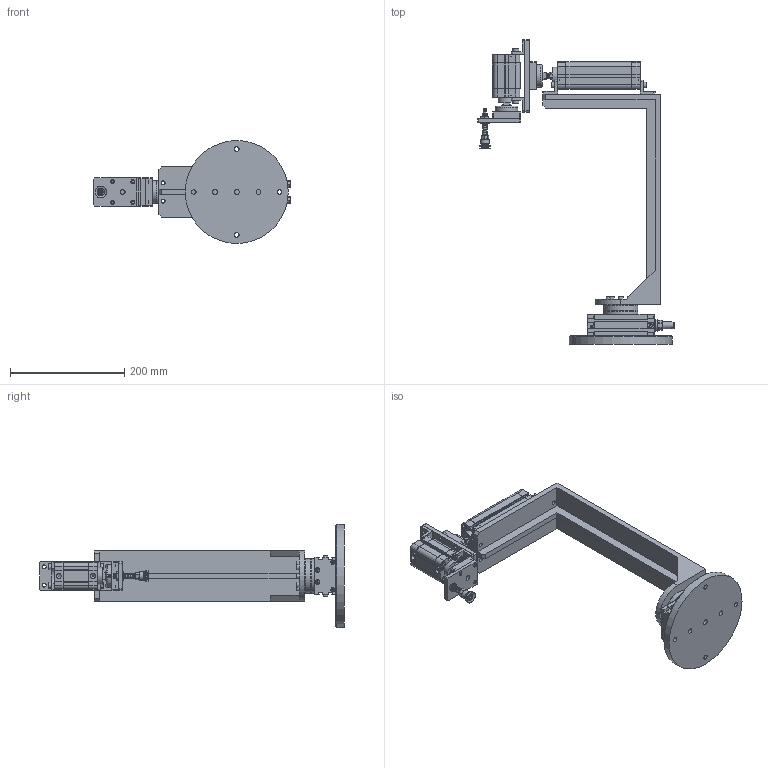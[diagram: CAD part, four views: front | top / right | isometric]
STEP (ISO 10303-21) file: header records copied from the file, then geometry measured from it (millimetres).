
FILE_DESCRIPTION(/* description */ (''),/* implementation_level */ '2;1');
FILE_NAME(/* name */ 'C:\Users\admin\Desktop\inventor\robot pneumatico lineare ventosa\step\robot_pneumatico_lineare_ventosa.stp',/* time_stamp */ '2021-08-26T10:34:26+02:00',/* author */ ('admin'),/* organization */ (''),/* preprocessor_version */ 'ST-DEVELOPER v18.1',/* originating_system */ 'Autodesk Inventor 2022',/* authorisation */ '');
FILE_SCHEMA (('AUTOMOTIVE_DESIGN { 1 0 10303 214 3 1 1 }'));
Length unit declared in the file: millimetre
Products named in the file (28): robot_pneumatico_lineare_ventosa; W1630252180_1--; W1630202180_1__-(1); base; 2300320030FP/0-GA-0-A-0-0; 230-32/30-CMPC2F-BR; 230-32/30-CMPC2F-PR; 2300320100FP/0-GA-M-0-A-0-0; 230-32-CMPC2F-HF; 230-32/100-CMPC2F-BR; 230-32-CMPC2F-HR; W0950322001-25_; Cylinder head screw DIN 912 M6x16; 230-32/100-CMPC2F-PR; W0950326021-13; supporto_cilindro_2; telaio; ANSI B18.3.1M - M5x0,8 x 20, BSHCSM; assieme_ventosa_pneumatica; R.03.01.Cup2; R.03.02.Tube; R.03.03.Spring; R.03.06.Nut; R.03.05.Interface; R.03.04.Fitting; DIN 3771 - 5 x 1,8 - N - NBR 70(2); supporto_ventosa; ANSI B18.3.1M - M6x1 x 12, BSHCSM
Assembly tree (50 placements, depth 3):
  robot_pneumatico_lineare_ventosa
    W1630252180_1--
      W1630202180_1__-(1)
    base
    2300320030FP/0-GA-0-A-0-0
      230-32-CMPC2F-HF
      230-32/30-CMPC2F-BR
      230-32-CMPC2F-HR
      W0950322001-25_  x2
      Cylinder head screw DIN 912 M6x16  x4
      230-32/30-CMPC2F-PR
      W0950326021-13
    2300320100FP/0-GA-M-0-A-0-0
      230-32-CMPC2F-HF
      230-32/100-CMPC2F-BR
      230-32-CMPC2F-HR
      W0950322001-25_  x2
      Cylinder head screw DIN 912 M6x16  x4
      230-32/100-CMPC2F-PR
      W0950326021-13
    supporto_cilindro_2
    telaio
    ANSI B18.3.1M - M5x0,8 x 20, BSHCSM  x8
    assieme_ventosa_pneumatica
      R.03.01.Cup2
      R.03.02.Tube
      R.03.03.Spring
      R.03.06.Nut
      R.03.05.Interface
      R.03.04.Fitting
      DIN 3771 - 5 x 1,8 - N - NBR 70(2)
    supporto_ventosa
    ANSI B18.3.1M - M6x1 x 12, BSHCSM  x4
Bounding box: 343.4 x 532.25 x 180 mm (x, y, z)
Volume: 1889314.9 mm3; surface area: 480924.5 mm2
Topology: 46 solids, 47 shells, 2279 faces, 5735 edges, 3741 vertices
Faces by surface type: plane 1313, cylinder 725, cone 144, torus 78, bspline 13, sphere 6
Full cylindrical faces by diameter (mm): 2 x1, 2.5 x7, 3 x1, 3.8 x2, 4 x6, 4.134 x2, 4.917 x28, 5 x14, 5.25 x1, 6 x24, 6.5 x16, 6.6 x26, 7 x32, 7.5 x8, 7.6 x16, 7.691 x2, 8 x22, 8.376 x4, 8.5 x9, 8.566 x4, 8.647 x3, 9 x18, 10 x17, 11 x8, 12 x5, 14 x6, 15 x1, 17 x4, 18 x2, 20 x2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
Entity records: 47605 total; most frequent: CARTESIAN_POINT 9485, DIRECTION 7887, ORIENTED_EDGE 7328, EDGE_CURVE 3664, AXIS2_PLACEMENT_3D 2782, VERTEX_POINT 2388, LINE 2323, VECTOR 2323
